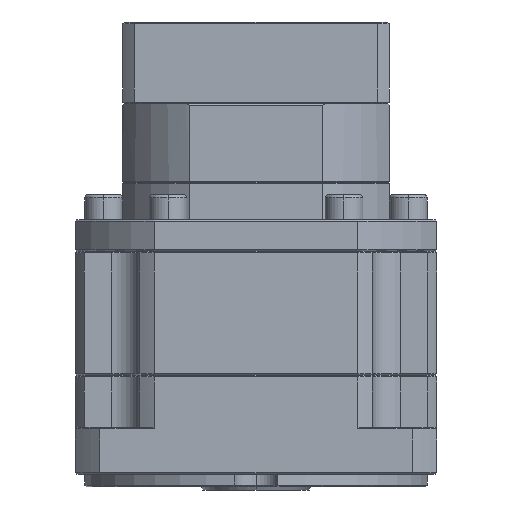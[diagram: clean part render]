
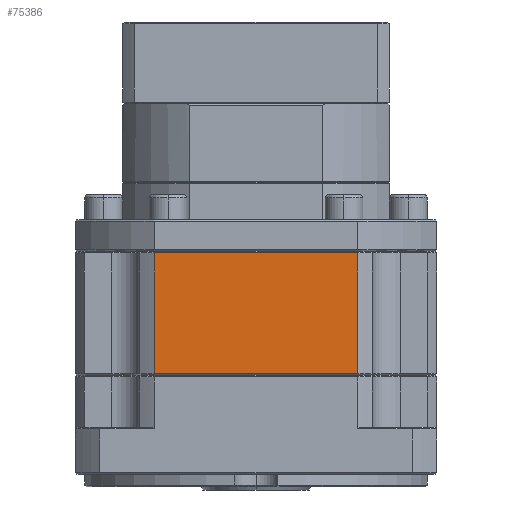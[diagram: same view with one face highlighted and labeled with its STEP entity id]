
A CAD part, front view. The second image highlights one B-rep face of the part: STEP entity #75386.
In plain terms, the highlighted planar face has unit normal (0, -1, 0).
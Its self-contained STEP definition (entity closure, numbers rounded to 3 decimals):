
#4124 = AXIS2_PLACEMENT_3D ( 'NONE', #51457, #113824, #60358 ) ;
#7862 = LINE ( 'NONE', #110425, #73529 ) ;
#11076 = LINE ( 'NONE', #23959, #58596 ) ;
#11884 = CARTESIAN_POINT ( 'NONE',  ( -138.417, -28.492, -69.256 ) ) ;
#13825 = LINE ( 'NONE', #100100, #34821 ) ;
#17020 = DIRECTION ( 'NONE',  ( 0., 0., -1. ) ) ;
#17450 = VERTEX_POINT ( 'NONE', #81468 ) ;
#18460 = ORIENTED_EDGE ( 'NONE', *, *, #30306, .F. ) ;
#19480 = EDGE_CURVE ( 'NONE', #17450, #90510, #69285, .T. ) ;
#23959 = CARTESIAN_POINT ( 'NONE',  ( -138.417, -28.492, -30.256 ) ) ;
#30306 = EDGE_CURVE ( 'NONE', #37596, #17450, #7862, .T. ) ;
#30580 = ORIENTED_EDGE ( 'NONE', *, *, #89380, .F. ) ;
#34821 = VECTOR ( 'NONE', #55633, 1000. ) ;
#37596 = VERTEX_POINT ( 'NONE', #89250 ) ;
#42106 = EDGE_CURVE ( 'NONE', #90510, #58111, #13825, .T. ) ;
#45572 = VECTOR ( 'NONE', #17020, 1000. ) ;
#46393 = ORIENTED_EDGE ( 'NONE', *, *, #19480, .F. ) ;
#51457 = CARTESIAN_POINT ( 'NONE',  ( -48.517, -28.492, -30.256 ) ) ;
#55633 = DIRECTION ( 'NONE',  ( -1., 0., 0. ) ) ;
#58111 = VERTEX_POINT ( 'NONE', #11884 ) ;
#58596 = VECTOR ( 'NONE', #86357, 1000. ) ;
#59044 = CARTESIAN_POINT ( 'NONE',  ( -73.617, -28.492, -69.256 ) ) ;
#59980 = PLANE ( 'NONE',  #4124 ) ;
#60358 = DIRECTION ( 'NONE',  ( -1., 0., 0. ) ) ;
#67245 = FACE_OUTER_BOUND ( 'NONE', #74933, .T. ) ;
#69285 = LINE ( 'NONE', #97028, #45572 ) ;
#73529 = VECTOR ( 'NONE', #74957, 1000. ) ;
#74933 = EDGE_LOOP ( 'NONE', ( #86675, #46393, #18460, #30580 ) ) ;
#74957 = DIRECTION ( 'NONE',  ( 1., 0., 0. ) ) ;
#75386 = ADVANCED_FACE ( 'NONE', ( #67245 ), #59980, .F. ) ;
#81468 = CARTESIAN_POINT ( 'NONE',  ( -73.617, -28.492, -30.756 ) ) ;
#86357 = DIRECTION ( 'NONE',  ( 0., 0., 1. ) ) ;
#86675 = ORIENTED_EDGE ( 'NONE', *, *, #42106, .F. ) ;
#89250 = CARTESIAN_POINT ( 'NONE',  ( -138.417, -28.492, -30.756 ) ) ;
#89380 = EDGE_CURVE ( 'NONE', #58111, #37596, #11076, .T. ) ;
#90510 = VERTEX_POINT ( 'NONE', #59044 ) ;
#97028 = CARTESIAN_POINT ( 'NONE',  ( -73.617, -28.492, -264.581 ) ) ;
#100100 = CARTESIAN_POINT ( 'NONE',  ( -48.517, -28.492, -69.256 ) ) ;
#110425 = CARTESIAN_POINT ( 'NONE',  ( -106.017, -28.492, -30.756 ) ) ;
#113824 = DIRECTION ( 'NONE',  ( 0., 1., 0. ) ) ;
